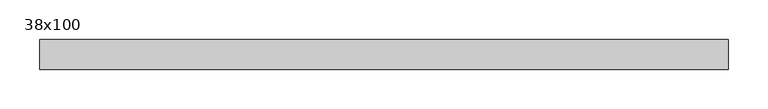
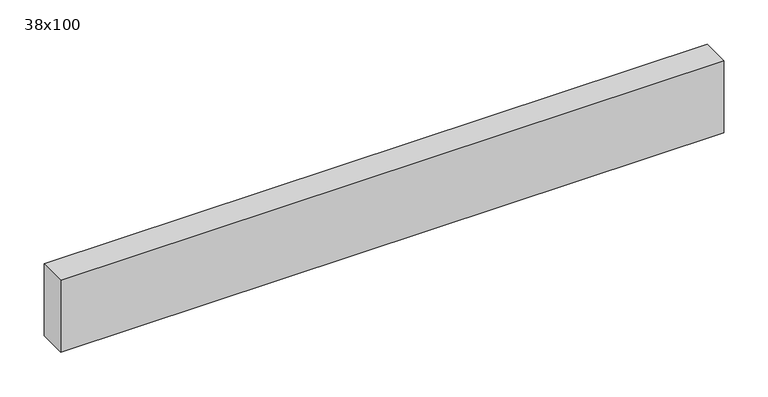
"""IFC4 building model written with IfcOpenShell, lengths in millimetres: beam geometry, Poutre - Bois de construction de dimensions courantes : 38x100."""

from ifc_helpers import new_model, si_unit, frame, origin, place, context, project, spatial, polyline, outline, extrude, source, transform, mapped, element, save


def beam_38x100_6e60ad3c(model_context):
    return source(origin(), model_context, "Body", "SweptSolid", [
        extrude(outline(polyline([(307.0, 19.05), (307.0, -19.05), (-562.0, -19.05), (-562.0, 19.05), (307.0, 19.05)])), frame((0.0, 0.0, -50.0), z_axis=(0.0, 0.0, 1.0), x_axis=(1.0, 0.0, 0.0)), (0.0, 0.0, 1.0), 100.0),
    ])


if __name__ == "__main__":
    model = new_model("IFC4")
    model_context = context("Model", 3, world=origin())
    ifc_project = project(units=[si_unit("LENGTHUNIT", "METRE", prefix="MILLI")], contexts=[model_context])
    site = spatial("IfcSite", under=ifc_project)
    building = spatial("IfcBuilding", under=site)
    placement = place(None, origin())
    beam_38x100_shape = beam_38x100_6e60ad3c(model_context)
    element("IfcBeam", 1, ObjectType="Poutre - Bois de construction de dimensions courantes : 38x100", at=placement, inside=building, context=model_context, shape_type="MappedRepresentation", body=[
        mapped(beam_38x100_shape, transform((0.0, 0.0, 0.0), x_axis=(1.0, 0.0, 0.0), y_axis=(0.0, 1.0, 0.0), z_axis=(0.0, 0.0, 1.0))),
    ])
    save(model, "model.ifc")
